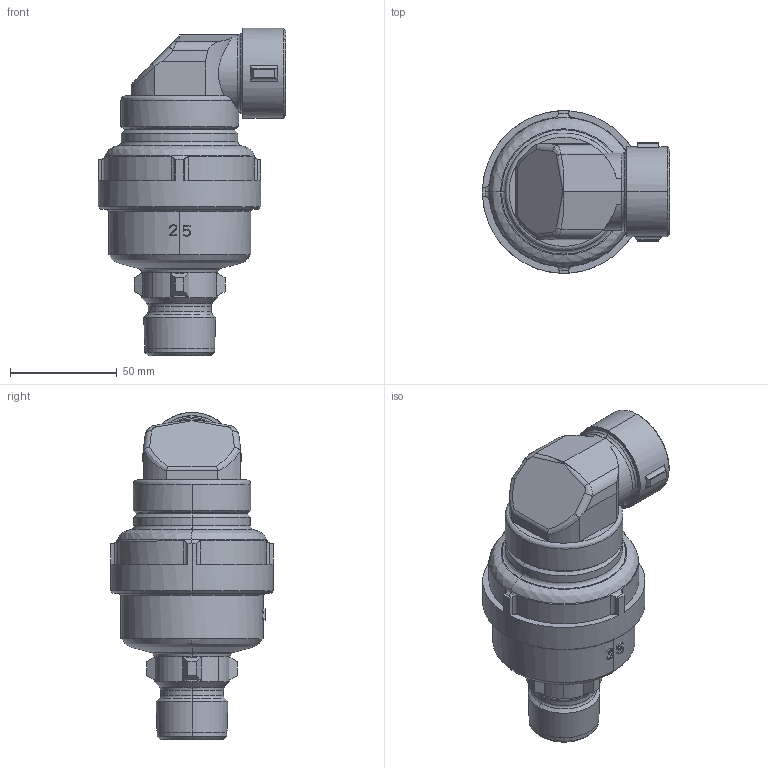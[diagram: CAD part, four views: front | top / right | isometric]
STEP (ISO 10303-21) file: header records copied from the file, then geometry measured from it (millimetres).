
FILE_DESCRIPTION( (''), '2;1');
FILE_NAME ('PC1056.128.TAV4(25A)_252.stp','2024-07-25T11:58:28',(''),(''),'spGate 19.8.4 (****-****-****-****)','','');
FILE_SCHEMA (('AUTOMOTIVE_DESIGN'));
Length unit declared in the file: millimetre
Bounding box: 87.5 x 76 x 153 mm (x, y, z)
Volume: 362520.7 mm3; surface area: 38599.5 mm2
Topology: 1 solids, 1 shells, 205 faces, 505 edges, 316 vertices
Faces by surface type: bspline 74, plane 73, cylinder 58
Entity records: 12121 total; most frequent: CARTESIAN_POINT 3861, ORIENTED_EDGE 1010, DIRECTION 720, COLOUR_RGB 711, PRESENTATION_STYLE_ASSIGNMENT 711, STYLED_ITEM 711, EDGE_CURVE 505, DRAUGHTING_PRE_DEFINED_CURVE_FONT 505
